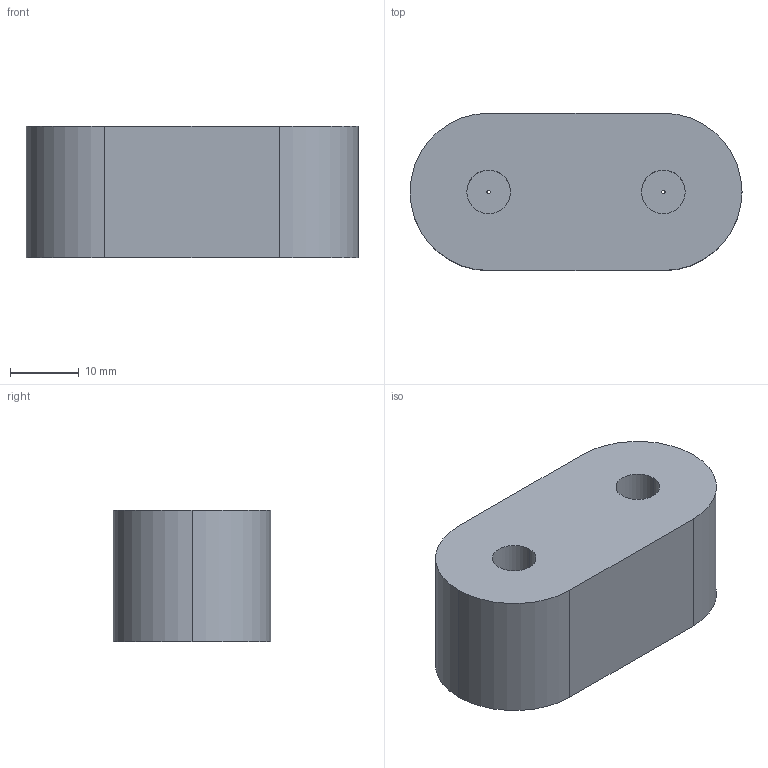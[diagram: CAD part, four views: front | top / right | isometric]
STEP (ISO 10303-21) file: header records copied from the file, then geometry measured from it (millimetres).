
FILE_DESCRIPTION (( 'STEP AP214' ), '1' );
FILE_NAME ('PUNCH.STEP', '2020-05-25T15:57:21', ( '' ), ( '' ), 'SwSTEP 2.0', 'SolidWorks 2020', '' );
FILE_SCHEMA (( 'AUTOMOTIVE_DESIGN' ));
Length unit declared in the file: inch
Products named in the file (1): PUNCH
Bounding box: 48.26 x 22.86 x 19.05 mm (x, y, z)
Volume: 18153 mm3; surface area: 4797.6 mm2
Topology: 1 solids, 1 shells, 17 faces, 39 edges, 26 vertices
Faces by surface type: cylinder 11, plane 6
Entity records: 543 total; most frequent: DIRECTION 97, CARTESIAN_POINT 83, ORIENTED_EDGE 78, AXIS2_PLACEMENT_3D 40, EDGE_CURVE 39, VERTEX_POINT 26, EDGE_LOOP 23, CIRCLE 22
